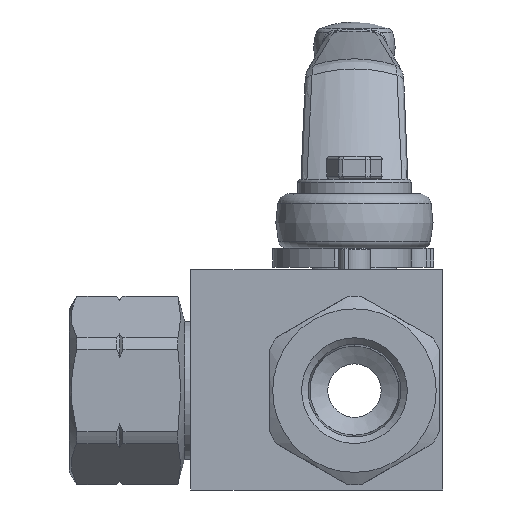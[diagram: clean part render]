
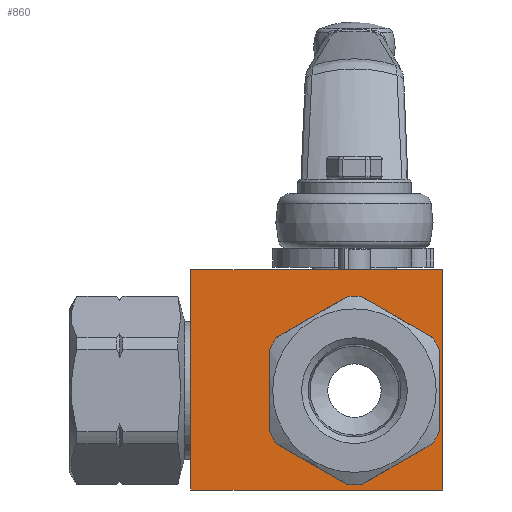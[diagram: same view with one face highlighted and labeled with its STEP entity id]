
A CAD part, front view. The second image highlights one B-rep face of the part: STEP entity #860.
In plain terms, the highlighted planar face has unit normal (0, -1, 0).
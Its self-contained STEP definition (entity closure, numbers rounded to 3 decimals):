
#860 = ADVANCED_FACE( '', ( #1777, #1778 ), #1779, .T. );
#1777 = FACE_OUTER_BOUND( '', #3420, .T. );
#1778 = FACE_BOUND( '', #3421, .T. );
#1779 = PLANE( '', #3422 );
#3420 = EDGE_LOOP( '', ( #5994, #5995, #5996, #5997 ) );
#3421 = EDGE_LOOP( '', ( #5998 ) );
#3422 = AXIS2_PLACEMENT_3D( '', #5999, #6000, #6001 );
#5994 = ORIENTED_EDGE( '', *, *, #8185, .T. );
#5995 = ORIENTED_EDGE( '', *, *, #7579, .T. );
#5996 = ORIENTED_EDGE( '', *, *, #7544, .T. );
#5997 = ORIENTED_EDGE( '', *, *, #8186, .T. );
#5998 = ORIENTED_EDGE( '', *, *, #8187, .T. );
#5999 = CARTESIAN_POINT( '', ( -26., -17.5, -15.8 ) );
#6000 = DIRECTION( '', ( 0., -1., 0. ) );
#6001 = DIRECTION( '', ( 0., 0., -1. ) );
#7544 = EDGE_CURVE( '', #9320, #9318, #9321, .T. );
#7579 = EDGE_CURVE( '', #9376, #9320, #9377, .T. );
#8185 = EDGE_CURVE( '', #10314, #9376, #10315, .T. );
#8186 = EDGE_CURVE( '', #9318, #10314, #10316, .T. );
#8187 = EDGE_CURVE( '', #10317, #10317, #10318, .T. );
#9318 = VERTEX_POINT( '', #11193 );
#9320 = VERTEX_POINT( '', #11196 );
#9321 = LINE( '', #11197, #11198 );
#9376 = VERTEX_POINT( '', #11298 );
#9377 = LINE( '', #11299, #11300 );
#10314 = VERTEX_POINT( '', #13401 );
#10315 = LINE( '', #13402, #13403 );
#10316 = LINE( '', #13404, #13405 );
#10317 = VERTEX_POINT( '', #13406 );
#10318 = CIRCLE( '', #13407, 11.25 );
#11193 = CARTESIAN_POINT( '', ( 14., -17.5, 19.2 ) );
#11196 = CARTESIAN_POINT( '', ( 14., -17.5, -15.8 ) );
#11197 = CARTESIAN_POINT( '', ( 14., -17.5, -15.8 ) );
#11198 = VECTOR( '', #14656, 1000. );
#11298 = CARTESIAN_POINT( '', ( -26., -17.5, -15.8 ) );
#11299 = CARTESIAN_POINT( '', ( -26., -17.5, -15.8 ) );
#11300 = VECTOR( '', #14695, 1000. );
#13401 = CARTESIAN_POINT( '', ( -26., -17.5, 19.2 ) );
#13402 = CARTESIAN_POINT( '', ( -26., -17.5, 19.2 ) );
#13403 = VECTOR( '', #15441, 1000. );
#13404 = CARTESIAN_POINT( '', ( 14., -17.5, 19.2 ) );
#13405 = VECTOR( '', #15442, 1000. );
#13406 = CARTESIAN_POINT( '', ( 11.25, -17.5, 0. ) );
#13407 = AXIS2_PLACEMENT_3D( '', #15443, #15444, #15445 );
#14656 = DIRECTION( '', ( 0., 0., 1. ) );
#14695 = DIRECTION( '', ( 1., 0., 0. ) );
#15441 = DIRECTION( '', ( 0., 0., -1. ) );
#15442 = DIRECTION( '', ( -1., 0., 0. ) );
#15443 = CARTESIAN_POINT( '', ( 0., -17.5, 0. ) );
#15444 = DIRECTION( '', ( 0., 1., 0. ) );
#15445 = DIRECTION( '', ( 1., 0., 0. ) );
